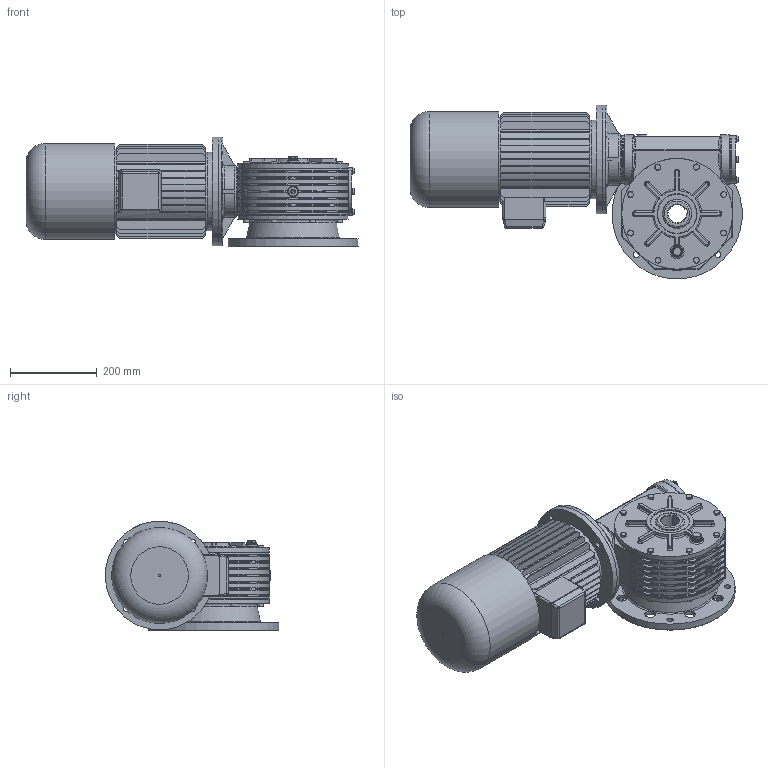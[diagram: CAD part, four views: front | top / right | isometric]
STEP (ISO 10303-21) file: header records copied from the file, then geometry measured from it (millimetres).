
FILE_DESCRIPTION((''),'2;1');
FILE_NAME('Y:\Archivi Inventor\Prog_01\GRAND_60\FIGURINI\MRV60 sito\112M AUTOFRENANTE\MRV60_F2_112M_B5.stp','2013-02-08T14:22:18',('tech3'),(''),'Autodesk Inventor 2013','Autodesk Inventor 2013','');
FILE_SCHEMA(('AUTOMOTIVE_DESIGN { 1 0 10303 214 1 1 1 1 }'));
Length unit declared in the file: millimetre
Products named in the file (19): MRV60_100L_112M_B5; MRV60_FIG; 0106001.A0 figurino; 0106009; UNI 5739 M8 x 20; figurino corona; PARAOLIO 65x90x10; 0106028; 0106029; UNI 5739 M8 x 25; Guarnizione 3_8 GAS; Tappo3_8 GAS; Tappo 3_8 GAS_esagn_incsst; DIN EN ISO 4762 M8 x 16; 0106002.A0 figurino; 0106003.A0 figurino; UNI 8839 A 8; 0106006; motori B5 brake 112
Assembly tree (47 placements, depth 3):
  MRV60_100L_112M_B5
    MRV60_FIG
      0106001.A0 figurino
      0106009
      UNI 5739 M8 x 20  x4
      figurino corona
      PARAOLIO 65x90x10  x2
      0106028
      0106029  x2
      UNI 5739 M8 x 25  x8
      Guarnizione 3_8 GAS  x3
      Tappo3_8 GAS
      Tappo 3_8 GAS_esagn_incsst  x2
      DIN EN ISO 4762 M8 x 16  x12
      0106002.A0 figurino
      0106003.A0 figurino
      UNI 8839 A 8  x4
    0106006
    motori B5 brake 112
Bounding box: 764.53 x 399.43 x 252.35 mm (x, y, z)
Volume: 18433431 mm3; surface area: 1909141.9 mm2
Topology: 47 solids, 51 shells, 2113 faces, 5168 edges, 3136 vertices
Faces by surface type: plane 941, cylinder 633, bspline 202, cone 161, torus 154, sphere 22
Full cylindrical faces by diameter (mm): 2 x2, 5 x1, 6.647 x24, 8 x26, 8.5 x40, 8.75 x4, 11.63 x12, 13 x12, 13.046 x1, 14 x12, 14.95 x3, 16.3 x3, 16.5 x2, 20 x4, 22 x6, 24 x8, 25 x2, 28 x1, 42 x1, 65 x2, 70 x1, 72.881 x2, 80 x5, 83.5 x2, 90 x5, 109.5 x1, 110 x4, 114 x2, 120 x1, 180 x3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
Entity records: 60631 total; most frequent: CARTESIAN_POINT 20520, DIRECTION 8211, ORIENTED_EDGE 7858, EDGE_CURVE 3929, AXIS2_PLACEMENT_3D 3259, VERTEX_POINT 2532, EDGE_LOOP 2069, VECTOR 1693
